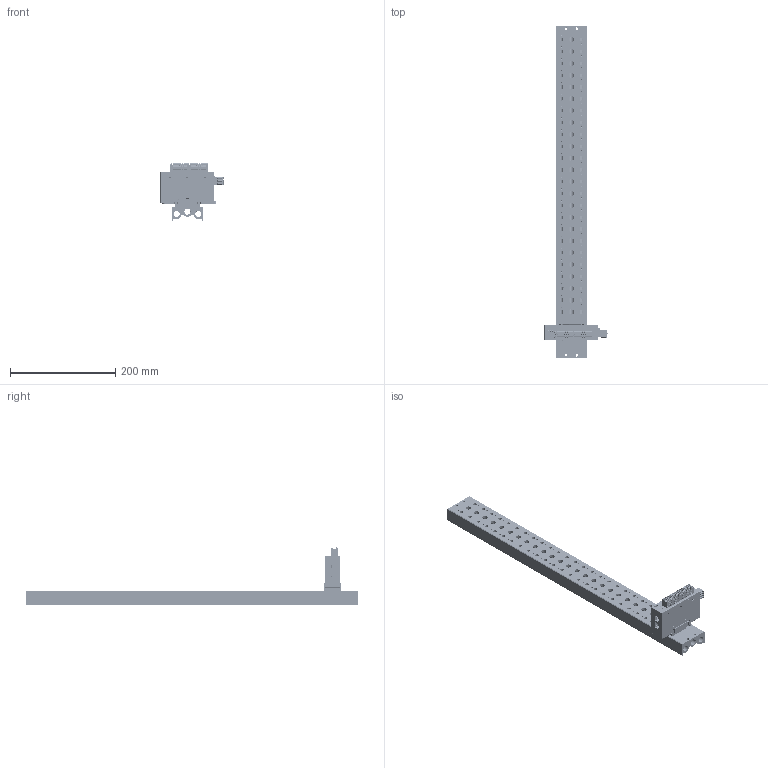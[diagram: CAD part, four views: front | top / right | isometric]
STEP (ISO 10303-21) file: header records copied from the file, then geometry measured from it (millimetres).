
FILE_DESCRIPTION(/* description */ (''),/* implementation_level */ '2;1');
FILE_NAME(/* name */ '',/* time_stamp */ '2025-10-09T16:15:36+08:00',/* author */ (''),/* organization */ (''),/* preprocessor_version */ 'ST-DEVELOPER v14',/* originating_system */ 'SIEMENS PLM Software NX 8.0',/* authorisation */ '');
FILE_SCHEMA (('AP203_CONFIGURATION_CONTROLLED_3D_DESIGN_OF_MECHANICAL_PARTS_AND_ASSEMBLIES_MIM_LF { 1 0 10303 403 2 1 2}'));
Products named in the file (1): DELL3E5857E9ucgx
Bounding box: 119.8 x 631 x 108.48 mm (x, y, z)
Volume: 774229.4 mm3; surface area: 257287.1 mm2
Topology: 2 solids, 228 shells, 10094 faces, 26775 edges, 17450 vertices
Faces by surface type: plane 6522, cylinder 2348, torus 336, bspline 328, cone 285, extrusion 180, sphere 95
Full cylindrical faces by diameter (mm): 0.18 x2, 2.5 x52, 3.05 x40, 3.3 x3, 3.5 x4, 4 x4, 4.5 x4, 6 x4, 6.5 x48, 9.6 x1, 10 x24, 11.492 x2, 11.5 x5, 11.8 x6
Entity records: 334009 total; most frequent: CARTESIAN_POINT 86544, ORIENTED_EDGE 52012, DIRECTION 49167, EDGE_CURVE 26006, VECTOR 18329, LINE 18149, VERTEX_POINT 17238, AXIS2_PLACEMENT_3D 15419
